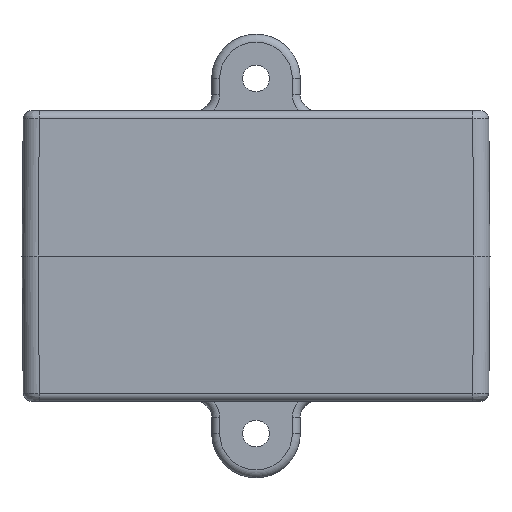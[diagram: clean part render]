
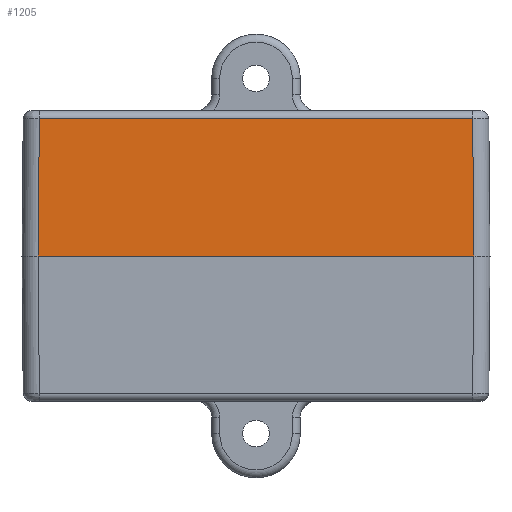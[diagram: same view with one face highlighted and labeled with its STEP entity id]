
A CAD part, front view. The second image highlights one B-rep face of the part: STEP entity #1205.
In plain terms, the highlighted planar face has unit normal (0, -1, 0.009).
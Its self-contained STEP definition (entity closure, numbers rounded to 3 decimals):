
#611=FACE_OUTER_BOUND('',#2420,.T.);
#1205=ADVANCED_FACE('',(#611),#1786,.T.);
#1786=PLANE('',#12281);
#2420=EDGE_LOOP('',(#4097,#4098,#4099,#4100));
#4097=ORIENTED_EDGE('',*,*,#8164,.F.);
#4098=ORIENTED_EDGE('',*,*,#8165,.T.);
#4099=ORIENTED_EDGE('',*,*,#8031,.T.);
#4100=ORIENTED_EDGE('',*,*,#8162,.T.);
#6795=VERTEX_POINT('',#17228);
#6796=VERTEX_POINT('',#17243);
#6884=VERTEX_POINT('',#17512);
#6885=VERTEX_POINT('',#17516);
#8031=EDGE_CURVE('',#6796,#6795,#9614,.T.);
#8162=EDGE_CURVE('',#6795,#6884,#9735,.T.);
#8164=EDGE_CURVE('',#6885,#6884,#9736,.T.);
#8165=EDGE_CURVE('',#6885,#6796,#9737,.T.);
#9614=LINE('',#17242,#11004);
#9735=LINE('',#17511,#11125);
#9736=LINE('',#17515,#11126);
#9737=LINE('',#17517,#11127);
#11004=VECTOR('',#13589,1.);
#11125=VECTOR('',#13806,1.);
#11126=VECTOR('',#13811,1.);
#11127=VECTOR('',#13812,1.);
#12281=AXIS2_PLACEMENT_3D('',#17518,#13813,#13814);
#13589=DIRECTION('',(-1.,0.,0.));
#13806=DIRECTION('',(-0.009,-0.009,-1.));
#13811=DIRECTION('',(-1.,0.,0.));
#13812=DIRECTION('',(-0.009,0.009,1.));
#13813=DIRECTION('',(0.,-1.,0.009));
#13814=DIRECTION('',(0.,-0.009,-1.));
#17228=CARTESIAN_POINT('',(-26.852,-38.852,17.009));
#17242=CARTESIAN_POINT('',(-40.843,-38.852,17.009));
#17243=CARTESIAN_POINT('',(26.852,-38.852,17.009));
#17511=CARTESIAN_POINT('',(-26.994,-38.994,0.715));
#17512=CARTESIAN_POINT('',(-27.,-39.,0.));
#17515=CARTESIAN_POINT('',(41.,-39.,0.));
#17516=CARTESIAN_POINT('',(27.,-39.,0.));
#17517=CARTESIAN_POINT('',(26.994,-38.994,0.715));
#17518=CARTESIAN_POINT('',(41.,-39.,0.));
